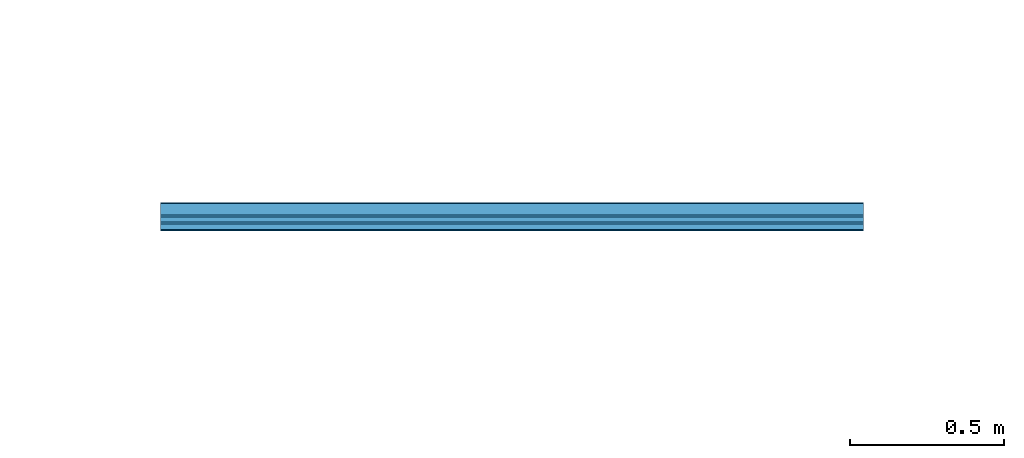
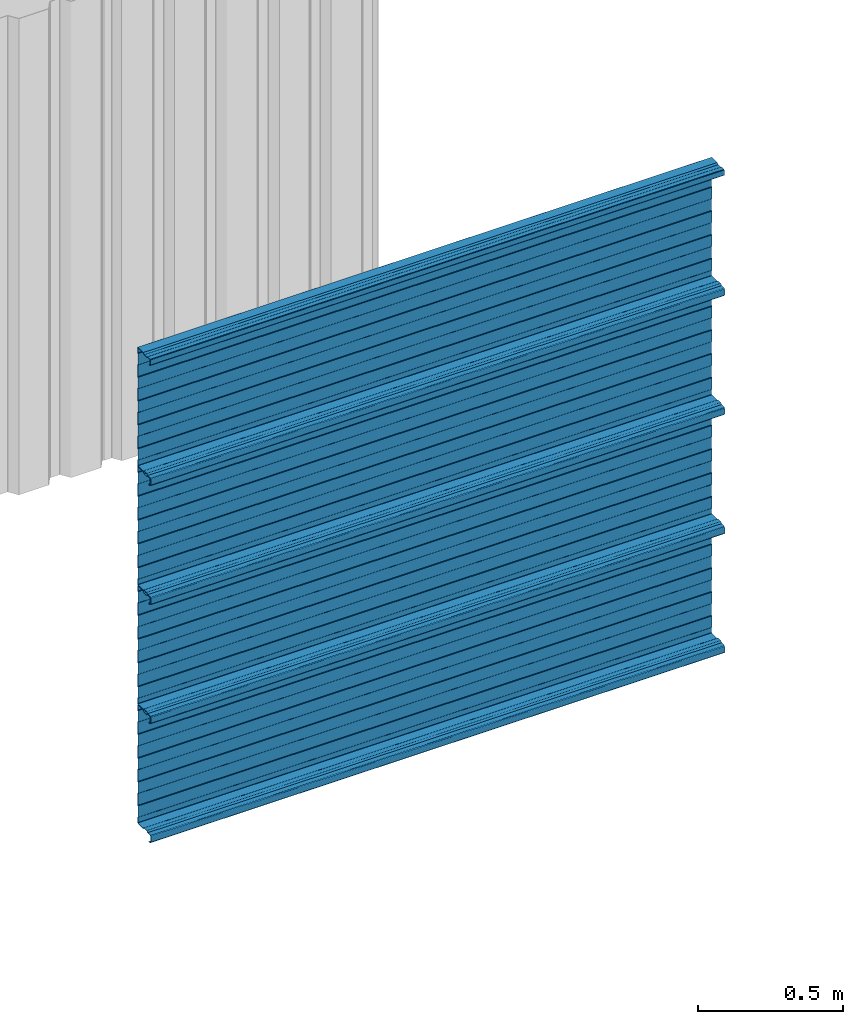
# One storey, part 2 of 14: 4 plates, 1 element without a shape of its own.
"""IFC2X3 building model written with IfcOpenShell, lengths in millimetres."""

from ifc_helpers import new_model, entity, si_unit, converted_unit, derived_unit, direction, frame, frame_2d, origin, place, context, subcontext, project, spatial, polyline, circle_curve, parameter, trimmed, segment, composite_curve, outline, extrude, source, transform, mapped, type_object, type_shapes, element, aggregate, save


model = new_model("IFC2X3")

# Units and contexts
model_context = context("Model", 3, precision=0.01, world=origin(), true_north=direction((6.12303176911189e-17, 1.0)))
context_of_model = context(None, 3, precision=0.01, world=origin(), true_north=direction((6.12303176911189e-17, 1.0)))
body_context = subcontext(model_context, "Body", "Model", "MODEL_VIEW")
ifc_project = project(units=[si_unit("LENGTHUNIT", "METRE", prefix="MILLI"), si_unit("AREAUNIT", "SQUARE_METRE"), si_unit("VOLUMEUNIT", "CUBIC_METRE"), converted_unit("PLANEANGLEUNIT", "DEGREE", entity("IfcRatioMeasure", 0.0174532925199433), si_unit("PLANEANGLEUNIT", "RADIAN"), dimensions=[0, 0, 0, 0, 0, 0, 0]), si_unit("MASSUNIT", "GRAM", prefix="KILO"), si_unit("TIMEUNIT", "SECOND"), si_unit("FREQUENCYUNIT", "HERTZ"), si_unit("THERMODYNAMICTEMPERATUREUNIT", "KELVIN"), derived_unit("THERMALTRANSMITTANCEUNIT", [(si_unit("MASSUNIT", "GRAM", prefix="KILO"), 1), (si_unit("THERMODYNAMICTEMPERATUREUNIT", "KELVIN"), -1), (si_unit("TIMEUNIT", "SECOND"), -3)]), derived_unit("VOLUMETRICFLOWRATEUNIT", [(si_unit("LENGTHUNIT", "METRE"), 3), (si_unit("TIMEUNIT", "SECOND"), -1)]), si_unit("ELECTRICCURRENTUNIT", "AMPERE"), si_unit("ELECTRICVOLTAGEUNIT", "VOLT"), si_unit("POWERUNIT", "WATT")], contexts=[model_context, context_of_model])

# Site, building, storey
site_placement = place(None, origin())
site = spatial("IfcSite", under=ifc_project, at=site_placement, Name="Surface", CompositionType="ELEMENT")
building_placement = place(site_placement, origin())
building = spatial("IfcBuilding", under=site, at=building_placement, CompositionType="ELEMENT")
storey_placement = place(building_placement, origin())
storey = spatial("IfcBuildingStorey", under=building, at=storey_placement, Name="00_begane grond", CompositionType="ELEMENT", Elevation=0.0)

# Curtain wall, plates
curtain_wall_type = type_object("IfcCurtainWallType", PredefinedType="NOTDEFINED")
curtain_wall_placement = place(storey_placement, origin())
curtain_wall = element("IfcCurtainWall", 1, at=curtain_wall_placement, inside=storey, type_object=curtain_wall_type)
plate_type = type_object("IfcPlateType", Name="SAB90_500", PredefinedType="NOTDEFINED")
shared_shape = source(origin(), body_context, "Body", "SweptSolid", [
    extrude(outline(composite_curve([segment(polyline([(228.924671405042, -57.2673182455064), (227.146450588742, -52.3816967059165)]), True, "CONTINUOUS"), segment(polyline([(227.146450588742, -52.3816967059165), (225.26706534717, -53.0657369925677)]), True, "CONTINUOUS"), segment(polyline([(225.26706534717, -53.0657369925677), (227.045286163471, -57.9513585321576)]), True, "CONTINUOUS"), segment(trimmed(circle_curve(frame_2d((230.804056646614, -56.5832779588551), x_axis=(1.0, 0.0)), 4.00000000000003), [parameter(199.999999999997)], [parameter(270.0)], True, "PARAMETER"), True, "CONTINUOUS"), segment(polyline([(230.804056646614, -60.583277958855), (249.003226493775, -60.583277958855)]), True, "CONTINUOUS"), segment(trimmed(circle_curve(frame_2d((249.003226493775, -56.5832779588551), x_axis=(1.0, 0.0)), 3.99999999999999), [parameter(270.0)], [parameter(0.0)], True, "PARAMETER"), True, "CONTINUOUS"), segment(polyline([(253.003226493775, -56.5832779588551), (253.003226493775, -41.5832779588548)]), True, "CONTINUOUS"), segment(polyline([(253.003226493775, -41.5832779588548), (248.375759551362, -35.104824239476)]), True, "CONTINUOUS"), segment(trimmed(circle_curve(frame_2d((250.003226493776, -33.9423478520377), x_axis=(1.0, 0.0)), 2.00000000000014), [parameter(180.0)], [parameter(215.537677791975)], True, "PARAMETER"), False, "CONTINUOUS"), segment(polyline([(248.003226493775, -33.9423478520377), (248.003226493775, -19.2242080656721)]), True, "CONTINUOUS"), segment(trimmed(circle_curve(frame_2d((250.003226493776, -19.2242080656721), x_axis=(1.0, 0.0)), 2.00000000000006), [parameter(144.462322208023)], [parameter(179.999999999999)], True, "PARAMETER"), False, "CONTINUOUS"), segment(polyline([(248.375759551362, -18.0617316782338), (253.003226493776, -11.5832779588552)]), True, "CONTINUOUS"), segment(polyline([(253.003226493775, -11.5832779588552), (253.003226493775, 24.4167220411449)]), True, "CONTINUOUS"), segment(trimmed(circle_curve(frame_2d((249.003226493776, 24.4167220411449), x_axis=(1.0, 0.0)), 4.00000000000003), [parameter(0.0)], [parameter(90.0000000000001)], True, "PARAMETER"), True, "CONTINUOUS"), segment(polyline([(249.003226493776, 28.4167220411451), (228.003226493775, 28.4167220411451)]), True, "CONTINUOUS"), segment(polyline([(228.003226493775, 28.4167220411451), (226.589012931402, 27.0025084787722)]), True, "CONTINUOUS"), segment(trimmed(circle_curve(frame_2d((225.174799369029, 28.4167220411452), x_axis=(1.0, 0.0)), 1.99999999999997), [parameter(270.0)], [parameter(315.000000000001)], True, "PARAMETER"), False, "CONTINUOUS"), segment(polyline([(225.174799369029, 26.4167220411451), (180.831653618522, 26.4167220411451)]), True, "CONTINUOUS"), segment(trimmed(circle_curve(frame_2d((180.831653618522, 28.4167220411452), x_axis=(1.0, 0.0)), 2.00000000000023), [parameter(224.999999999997)], [parameter(270.0)], True, "PARAMETER"), False, "CONTINUOUS"), segment(polyline([(179.417440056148, 27.002508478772), (178.003226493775, 28.4167220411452)]), True, "CONTINUOUS"), segment(polyline([(178.003226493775, 28.4167220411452), (128.003226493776, 28.4167220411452)]), True, "CONTINUOUS"), segment(polyline([(128.003226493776, 28.4167220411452), (126.589012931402, 27.002508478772)]), True, "CONTINUOUS"), segment(trimmed(circle_curve(frame_2d((125.174799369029, 28.4167220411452), x_axis=(1.0, 0.0)), 2.00000000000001), [parameter(270.0)], [parameter(314.999999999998)], True, "PARAMETER"), False, "CONTINUOUS"), segment(polyline([(125.174799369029, 26.4167220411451), (80.8316536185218, 26.4167220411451)]), True, "CONTINUOUS"), segment(trimmed(circle_curve(frame_2d((80.8316536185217, 28.4167220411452), x_axis=(1.0, 0.0)), 2.00000000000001), [parameter(224.99999999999)], [parameter(270.000000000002)], True, "PARAMETER"), False, "CONTINUOUS"), segment(polyline([(79.4174400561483, 27.0025084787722), (78.0032264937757, 28.4167220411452)]), True, "CONTINUOUS"), segment(polyline([(78.0032264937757, 28.4167220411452), (28.0032264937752, 28.4167220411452)]), True, "CONTINUOUS"), segment(polyline([(28.0032264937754, 28.4167220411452), (26.5890129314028, 27.0025084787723)]), True, "CONTINUOUS"), segment(trimmed(circle_curve(frame_2d((25.1747993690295, 28.4167220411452), x_axis=(1.0, 0.0)), 1.99999999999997), [parameter(270.0)], [parameter(315.000000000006)], True, "PARAMETER"), False, "CONTINUOUS"), segment(polyline([(25.1747993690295, 26.4167220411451), (-19.1683463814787, 26.4167220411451)]), True, "CONTINUOUS"), segment(trimmed(circle_curve(frame_2d((-19.1683463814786, 28.4167220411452), x_axis=(1.0, 0.0)), 1.99999999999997), [parameter(224.999999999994)], [parameter(269.999999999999)], True, "PARAMETER"), False, "CONTINUOUS"), segment(polyline([(-20.5825599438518, 27.0025084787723), (-21.9967735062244, 28.4167220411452)]), True, "CONTINUOUS"), segment(polyline([(-21.9967735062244, 28.4167220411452), (-71.9967735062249, 28.4167220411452)]), True, "CONTINUOUS"), segment(polyline([(-71.9967735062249, 28.4167220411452), (-73.4109870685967, 27.0025084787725)]), True, "CONTINUOUS"), segment(trimmed(circle_curve(frame_2d((-74.8252006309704, 28.4167220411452), x_axis=(1.0, 0.0)), 1.99999999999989), [parameter(270.0)], [parameter(315.000000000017)], True, "PARAMETER"), False, "CONTINUOUS"), segment(polyline([(-74.8252006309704, 26.4167220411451), (-119.168346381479, 26.4167220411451)]), True, "CONTINUOUS"), segment(trimmed(circle_curve(frame_2d((-119.168346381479, 28.4167220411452), x_axis=(1.0, 0.0)), 1.99999999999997), [parameter(224.999999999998)], [parameter(269.999999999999)], True, "PARAMETER"), False, "CONTINUOUS"), segment(polyline([(-120.582559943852, 27.0025084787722), (-121.996773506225, 28.4167220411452)]), True, "CONTINUOUS"), segment(polyline([(-121.996773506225, 28.4167220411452), (-171.996773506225, 28.4167220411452)]), True, "CONTINUOUS"), segment(polyline([(-171.996773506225, 28.4167220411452), (-173.410987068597, 27.0025084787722)]), True, "CONTINUOUS"), segment(trimmed(circle_curve(frame_2d((-174.825200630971, 28.4167220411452), x_axis=(1.0, 0.0)), 2.00000000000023), [parameter(269.999999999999)], [parameter(315.000000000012)], True, "PARAMETER"), False, "CONTINUOUS"), segment(polyline([(-174.825200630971, 26.416722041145), (-219.168346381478, 26.416722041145)]), True, "CONTINUOUS"), segment(trimmed(circle_curve(frame_2d((-219.168346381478, 28.4167220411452), x_axis=(1.0, 0.0)), 2.00000000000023), [parameter(224.999999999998)], [parameter(269.999999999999)], True, "PARAMETER"), False, "CONTINUOUS"), segment(polyline([(-220.582559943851, 27.0025084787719), (-221.996773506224, 28.4167220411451)]), True, "CONTINUOUS"), segment(polyline([(-221.996773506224, 28.4167220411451), (-242.996773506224, 28.4167220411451)]), True, "CONTINUOUS"), segment(trimmed(circle_curve(frame_2d((-242.996773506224, 24.4167220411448), x_axis=(1.0, 0.0)), 3.99999999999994), [parameter(90.0000000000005)], [parameter(180.0)], True, "PARAMETER"), True, "CONTINUOUS"), segment(polyline([(-246.996773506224, 24.4167220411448), (-246.996773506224, -11.5832779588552)]), True, "CONTINUOUS"), segment(polyline([(-246.996773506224, -11.5832779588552), (-242.369306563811, -18.0617316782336)]), True, "CONTINUOUS"), segment(trimmed(circle_curve(frame_2d((-243.996773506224, -19.2242080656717), x_axis=(1.0, 0.0)), 2.00000000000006), [parameter(359.999999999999)], [parameter(35.5376777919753)], True, "PARAMETER"), False, "CONTINUOUS"), segment(polyline([(-241.996773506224, -19.2242080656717), (-241.996773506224, -33.9423478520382)]), True, "CONTINUOUS"), segment(trimmed(circle_curve(frame_2d((-243.996773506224, -33.9423478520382), x_axis=(1.0, 0.0)), 2.00000000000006), [parameter(324.462322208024)], [parameter(360.0)], True, "PARAMETER"), False, "CONTINUOUS"), segment(polyline([(-242.369306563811, -35.1048242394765), (-246.996773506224, -41.5832779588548)]), True, "CONTINUOUS"), segment(polyline([(-246.996773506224, -41.5832779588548), (-246.996773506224, -57.583277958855)]), True, "CONTINUOUS"), segment(trimmed(circle_curve(frame_2d((-250.996773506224, -57.583277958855), x_axis=(1.0, 0.0)), 4.00000000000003), [parameter(269.999999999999)], [parameter(360.0)], True, "PARAMETER"), False, "CONTINUOUS"), segment(polyline([(-250.996773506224, -61.5832779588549), (-271.195943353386, -61.5832779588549)]), True, "CONTINUOUS"), segment(trimmed(circle_curve(frame_2d((-271.195943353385, -57.583277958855), x_axis=(1.0, 0.0)), 4.00000000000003), [parameter(200.0)], [parameter(269.999999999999)], True, "PARAMETER"), False, "CONTINUOUS"), segment(polyline([(-274.954713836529, -58.9513585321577), (-279.127075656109, -47.4878886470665)]), True, "CONTINUOUS"), segment(polyline([(-279.127075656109, -47.4878886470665), (-281.006460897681, -48.1719289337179)]), True, "CONTINUOUS"), segment(polyline([(-281.006460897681, -48.1719289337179), (-276.834099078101, -59.6353988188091)]), True, "CONTINUOUS"), segment(trimmed(circle_curve(frame_2d((-271.195943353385, -57.583277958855), x_axis=(1.0, 0.0)), 6.00000000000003), [parameter(200.0)], [parameter(270.0)], True, "PARAMETER"), True, "CONTINUOUS"), segment(polyline([(-271.195943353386, -63.583277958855), (-250.996773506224, -63.583277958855)]), True, "CONTINUOUS"), segment(trimmed(circle_curve(frame_2d((-250.996773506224, -57.583277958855), x_axis=(1.0, 0.0)), 6.00000000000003), [parameter(270.0)], [parameter(0.0)], True, "PARAMETER"), True, "CONTINUOUS"), segment(polyline([(-244.996773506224, -57.583277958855), (-244.996773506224, -42.224208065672)]), True, "CONTINUOUS"), segment(polyline([(-244.996773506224, -42.224208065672), (-240.741839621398, -36.2673006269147)]), True, "CONTINUOUS"), segment(trimmed(circle_curve(frame_2d((-243.996773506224, -33.9423478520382), x_axis=(1.0, 0.0)), 4.00000000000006), [parameter(324.462322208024)], [parameter(0.0)], True, "PARAMETER"), True, "CONTINUOUS"), segment(polyline([(-239.996773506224, -33.9423478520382), (-239.996773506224, -19.2242080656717)]), True, "CONTINUOUS"), segment(trimmed(circle_curve(frame_2d((-243.996773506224, -19.2242080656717), x_axis=(1.0, 0.0)), 4.00000000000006), [parameter(0.0)], [parameter(35.5376777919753)], True, "PARAMETER"), True, "CONTINUOUS"), segment(polyline([(-240.741839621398, -16.8992552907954), (-244.996773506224, -10.9423478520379)]), True, "CONTINUOUS"), segment(polyline([(-244.996773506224, -10.9423478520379), (-244.996773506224, 24.4167220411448)]), True, "CONTINUOUS"), segment(trimmed(circle_curve(frame_2d((-242.996773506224, 24.4167220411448), x_axis=(1.0, 0.0)), 1.99999999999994), [parameter(89.9999999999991)], [parameter(179.999999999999)], True, "PARAMETER"), False, "CONTINUOUS"), segment(polyline([(-242.996773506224, 26.4167220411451), (-222.825200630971, 26.4167220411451)]), True, "CONTINUOUS"), segment(polyline([(-222.825200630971, 26.4167220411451), (-221.996773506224, 25.5882949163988)]), True, "CONTINUOUS"), segment(trimmed(circle_curve(frame_2d((-219.168346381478, 28.4167220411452), x_axis=(1.0, 0.0)), 4.00000000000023), [parameter(225.0)], [parameter(269.999999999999)], True, "PARAMETER"), True, "CONTINUOUS"), segment(polyline([(-219.168346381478, 24.416722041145), (-174.825200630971, 24.416722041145)]), True, "CONTINUOUS"), segment(trimmed(circle_curve(frame_2d((-174.825200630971, 28.4167220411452), x_axis=(1.0, 0.0)), 4.00000000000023), [parameter(269.999999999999)], [parameter(315.000000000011)], True, "PARAMETER"), True, "CONTINUOUS"), segment(polyline([(-171.996773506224, 25.5882949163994), (-171.168346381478, 26.4167220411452)]), True, "CONTINUOUS"), segment(polyline([(-171.168346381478, 26.4167220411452), (-122.825200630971, 26.4167220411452)]), True, "CONTINUOUS"), segment(polyline([(-122.825200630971, 26.4167220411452), (-121.996773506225, 25.5882949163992)]), True, "CONTINUOUS"), segment(trimmed(circle_curve(frame_2d((-119.168346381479, 28.4167220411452), x_axis=(1.0, 0.0)), 3.99999999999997), [parameter(224.999999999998)], [parameter(270.0)], True, "PARAMETER"), True, "CONTINUOUS"), segment(polyline([(-119.168346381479, 24.4167220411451), (-74.8252006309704, 24.4167220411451)]), True, "CONTINUOUS"), segment(trimmed(circle_curve(frame_2d((-74.8252006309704, 28.4167220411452), x_axis=(1.0, 0.0)), 3.99999999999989), [parameter(270.0)], [parameter(315.000000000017)], True, "PARAMETER"), True, "CONTINUOUS"), segment(polyline([(-71.9967735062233, 25.5882949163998), (-71.1683463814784, 26.4167220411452)]), True, "CONTINUOUS"), segment(polyline([(-71.1683463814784, 26.4167220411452), (-22.8252006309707, 26.4167220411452)]), True, "CONTINUOUS"), segment(polyline([(-22.8252006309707, 26.4167220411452), (-21.9967735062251, 25.5882949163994)]), True, "CONTINUOUS"), segment(trimmed(circle_curve(frame_2d((-19.1683463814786, 28.4167220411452), x_axis=(1.0, 0.0)), 3.99999999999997), [parameter(224.999999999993)], [parameter(269.999999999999)], True, "PARAMETER"), True, "CONTINUOUS"), segment(polyline([(-19.1683463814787, 24.4167220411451), (25.1747993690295, 24.4167220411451)]), True, "CONTINUOUS"), segment(trimmed(circle_curve(frame_2d((25.1747993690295, 28.4167220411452), x_axis=(1.0, 0.0)), 3.99999999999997), [parameter(270.0)], [parameter(315.000000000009)], True, "PARAMETER"), True, "CONTINUOUS"), segment(polyline([(28.0032264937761, 25.5882949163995), (28.8316536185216, 26.4167220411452)]), True, "CONTINUOUS"), segment(polyline([(28.8316536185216, 26.4167220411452), (77.1747993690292, 26.4167220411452)]), True, "CONTINUOUS"), segment(polyline([(77.1747993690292, 26.4167220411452), (78.003226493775, 25.5882949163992)]), True, "CONTINUOUS"), segment(trimmed(circle_curve(frame_2d((80.8316536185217, 28.4167220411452), x_axis=(1.0, 0.0)), 4.00000000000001), [parameter(224.999999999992)], [parameter(270.000000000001)], True, "PARAMETER"), True, "CONTINUOUS"), segment(polyline([(80.8316536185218, 24.4167220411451), (125.174799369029, 24.4167220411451)]), True, "CONTINUOUS"), segment(trimmed(circle_curve(frame_2d((125.174799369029, 28.4167220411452), x_axis=(1.0, 0.0)), 4.00000000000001), [parameter(270.0)], [parameter(314.999999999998)], True, "PARAMETER"), True, "CONTINUOUS"), segment(polyline([(128.003226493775, 25.5882949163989), (128.831653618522, 26.4167220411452)]), True, "CONTINUOUS"), segment(polyline([(128.831653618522, 26.4167220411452), (177.174799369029, 26.4167220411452)]), True, "CONTINUOUS"), segment(polyline([(177.174799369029, 26.4167220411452), (178.003226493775, 25.588294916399)]), True, "CONTINUOUS"), segment(trimmed(circle_curve(frame_2d((180.831653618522, 28.4167220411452), x_axis=(1.0, 0.0)), 4.00000000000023), [parameter(224.999999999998)], [parameter(270.0)], True, "PARAMETER"), True, "CONTINUOUS"), segment(polyline([(180.831653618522, 24.4167220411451), (225.174799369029, 24.4167220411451)]), True, "CONTINUOUS"), segment(trimmed(circle_curve(frame_2d((225.174799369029, 28.4167220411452), x_axis=(1.0, 0.0)), 3.99999999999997), [parameter(270.0)], [parameter(315.000000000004)], True, "PARAMETER"), True, "CONTINUOUS"), segment(polyline([(228.003226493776, 25.5882949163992), (228.831653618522, 26.4167220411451)]), True, "CONTINUOUS"), segment(polyline([(228.831653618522, 26.4167220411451), (249.003226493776, 26.4167220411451)]), True, "CONTINUOUS"), segment(trimmed(circle_curve(frame_2d((249.003226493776, 24.4167220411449), x_axis=(1.0, 0.0)), 2.00000000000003), [parameter(359.999999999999)], [parameter(90.0000000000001)], True, "PARAMETER"), False, "CONTINUOUS"), segment(polyline([(251.003226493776, 24.4167220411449), (251.003226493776, -10.9423478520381)]), True, "CONTINUOUS"), segment(polyline([(251.003226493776, -10.9423478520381), (246.748292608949, -16.8992552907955)]), True, "CONTINUOUS"), segment(trimmed(circle_curve(frame_2d((250.003226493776, -19.2242080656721), x_axis=(1.0, 0.0)), 4.00000000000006), [parameter(144.462322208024)], [parameter(180.0)], True, "PARAMETER"), True, "CONTINUOUS"), segment(polyline([(246.003226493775, -19.2242080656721), (246.003226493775, -33.9423478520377)]), True, "CONTINUOUS"), segment(trimmed(circle_curve(frame_2d((250.003226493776, -33.9423478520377), x_axis=(1.0, 0.0)), 4.00000000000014), [parameter(180.0)], [parameter(215.537677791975)], True, "PARAMETER"), True, "CONTINUOUS"), segment(polyline([(246.748292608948, -36.2673006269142), (251.003226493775, -42.2242080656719)]), True, "CONTINUOUS"), segment(polyline([(251.003226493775, -42.2242080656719), (251.003226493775, -56.5832779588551)]), True, "CONTINUOUS"), segment(trimmed(circle_curve(frame_2d((249.003226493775, -56.5832779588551), x_axis=(1.0, 0.0)), 1.99999999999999), [parameter(270.0)], [parameter(360.0)], True, "PARAMETER"), False, "CONTINUOUS"), segment(polyline([(249.003226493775, -58.583277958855), (230.804056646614, -58.583277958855)]), True, "CONTINUOUS"), segment(trimmed(circle_curve(frame_2d((230.804056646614, -56.5832779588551), x_axis=(1.0, 0.0)), 2.00000000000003), [parameter(199.999999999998)], [parameter(270.0)], True, "PARAMETER"), False, "CONTINUOUS")], self_intersect=False)), frame((-1140.0, 63.5832779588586, 246.996773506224), z_axis=(-1.0, 0.0, 0.0), x_axis=(0.0, 0.0, 1.0)), (0.0, 0.0, -1.0), 2280.0),
])
type_shapes(plate_type, [shared_shape])
plate_1_placement = place(curtain_wall_placement, frame((13135.0, -17000.0, 0.0)))
plate_1 = element("IfcPlate", 2, at=plate_1_placement, type_object=plate_type, Name="27_CWP_SAB90_500:SAB90_500", ObjectType="SAB90_500", context=body_context, shape_type="MappedRepresentation", body=[
    mapped(shared_shape, transform((0.0, 0.0, 0.0), scale=1.0)),
])
plate_2_placement = place(curtain_wall_placement, frame((13135.0, -17000.0, 500.0)))
plate_2 = element("IfcPlate", 3, at=plate_2_placement, type_object=plate_type, Name="27_CWP_SAB90_500:SAB90_500", ObjectType="SAB90_500", context=body_context, shape_type="MappedRepresentation", body=[
    mapped(shared_shape, transform((0.0, 0.0, 0.0), scale=1.0)),
])
plate_3_placement = place(curtain_wall_placement, frame((13135.0, -17000.0, 1000.0)))
plate_3 = element("IfcPlate", 4, at=plate_3_placement, type_object=plate_type, Name="27_CWP_SAB90_500:SAB90_500", ObjectType="SAB90_500", context=body_context, shape_type="MappedRepresentation", body=[
    mapped(shared_shape, transform((0.0, 0.0, 0.0), scale=1.0)),
])
plate_4_placement = place(curtain_wall_placement, frame((13135.0, -17000.0, 1500.0)))
plate_4 = element("IfcPlate", 5, at=plate_4_placement, type_object=plate_type, Name="27_CWP_SAB90_500:SAB90_500", ObjectType="SAB90_500", context=body_context, shape_type="MappedRepresentation", body=[
    mapped(shared_shape, transform((0.0, 0.0, 0.0), scale=1.0)),
])
aggregate(curtain_wall, [plate_1, plate_2, plate_3, plate_4])

save(model, "model.ifc")
